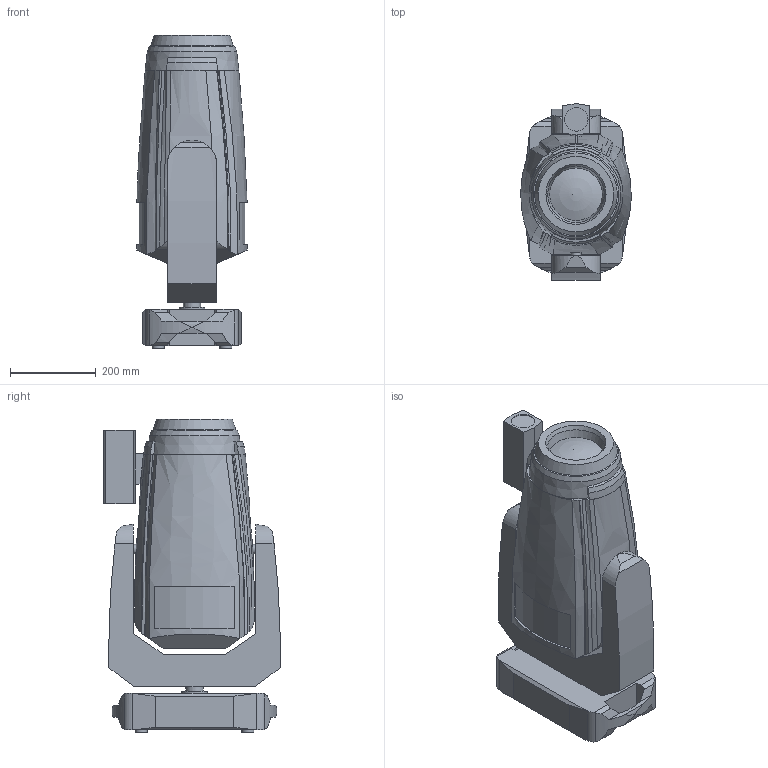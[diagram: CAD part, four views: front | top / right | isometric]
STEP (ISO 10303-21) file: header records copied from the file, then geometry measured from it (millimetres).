
FILE_DESCRIPTION(/* description */ ('Unknown'),/* implementation_level */ '2;1');
FILE_NAME(/* name */ '3D-T1 FS',/* time_stamp */ '2021-02-10T17:33:23+01:00',/* author */ ('Ing.Rostislav HĂˇba'),/* organization */ ('ROBE lighting'),/* preprocessor_version */ 'ST-DEVELOPER v16.7',/* originating_system */ 'Solid Edge',/* authorisation */ 'Unknown');
FILE_SCHEMA (('AUTOMOTIVE_DESIGN {1 0 10303 214 3 1 1}'));
Length unit declared in the file: millimetre
Products named in the file (5): 3D-T1 FS; MP_base; T1-Arm; T1-Head; 3D_Head Cam
Assembly tree (4 placements, depth 2):
  3D-T1 FS
    MP_base
    T1-Arm
    T1-Head
    3D_Head Cam
Bounding box: 257.87 x 411.22 x 732.15 mm (x, y, z)
Volume: 40324749.8 mm3; surface area: 1218919.7 mm2
Topology: 4 solids, 4 shells, 198 faces, 530 edges, 350 vertices
Faces by surface type: plane 114, cylinder 45, bspline 26, cone 12, torus 1
Full cylindrical faces by diameter (mm): 11 x4, 22 x1, 22.229 x1, 28 x4, 40 x1, 55 x1, 60 x1
Entity records: 7188 total; most frequent: CARTESIAN_POINT 2381, ORIENTED_EDGE 1006, DIRECTION 889, EDGE_CURVE 503, VERTEX_POINT 343, AXIS2_PLACEMENT_3D 321, LINE 247, VECTOR 247
